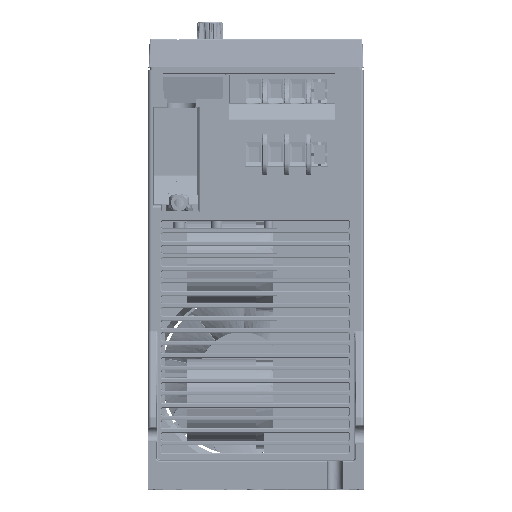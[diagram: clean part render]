
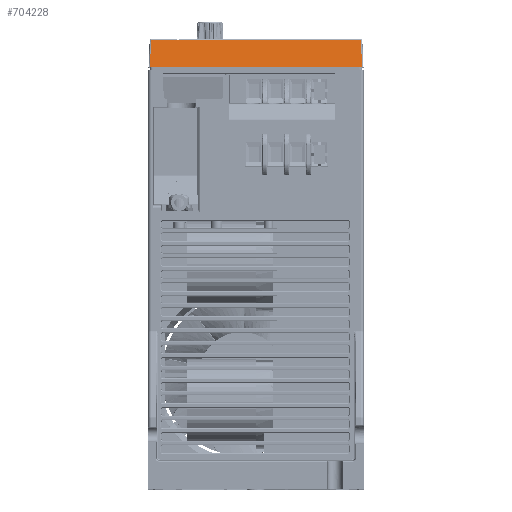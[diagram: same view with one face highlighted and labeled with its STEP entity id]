
A CAD part, top view. The second image highlights one B-rep face of the part: STEP entity #704228.
In plain terms, the highlighted planar face has unit normal (0, 0.174, 0.985).
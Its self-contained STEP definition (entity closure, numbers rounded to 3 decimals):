
#686814=CARTESIAN_POINT('',(36.981,-8.3,89.912));
#686861=CARTESIAN_POINT('',(-36.981,-8.3,89.912));
#690195=DIRECTION('',(0.043,-0.984,0.173));
#690196=VECTOR('',#690195,9.744);
#690197=CARTESIAN_POINT('',(36.563,1.287,
88.221));
#690198=LINE('',#690197,#690196);
#690202=DIRECTION('',(-1.,0.,0.));
#690203=VECTOR('',#690202,73.963);
#690204=CARTESIAN_POINT('',(36.981,-8.3,89.912));
#690205=LINE('',#690204,#690203);
#690209=DIRECTION('',(-0.043,-0.984,0.173));
#690210=VECTOR('',#690209,9.744);
#690211=CARTESIAN_POINT('',(-36.563,1.287,
88.221));
#690212=LINE('',#690211,#690210);
#690216=DIRECTION('',(-1.,0.,0.));
#690217=VECTOR('',#690216,9.063);
#690218=CARTESIAN_POINT('',(-27.5,1.287,88.221));
#690219=LINE('',#690218,#690217);
#690223=DIRECTION('',(-1.,0.,0.));
#690224=VECTOR('',#690223,0.5);
#690225=CARTESIAN_POINT('',(-27.,1.2,88.237));
#690226=LINE('',#690225,#690224);
#690230=DIRECTION('',(1.,0.,0.));
#690231=VECTOR('',#690230,63.563);
#690232=CARTESIAN_POINT('',(-27.,1.287,88.221));
#690233=LINE('',#690232,#690231);
#690334=DIRECTION('',(0.,0.985,
-0.174));
#690335=VECTOR('',#690334,0.088);
#690336=CARTESIAN_POINT('',(-27.5,1.2,88.237));
#690337=LINE('',#690336,#690335);
#690363=DIRECTION('',(0.,-0.985,0.174));
#690364=VECTOR('',#690363,0.088);
#690365=CARTESIAN_POINT('',(-27.,1.287,88.221));
#690366=LINE('',#690365,#690364);
#696839=CARTESIAN_POINT('',(-27.,1.2,88.237));
#696840=CARTESIAN_POINT('',(-27.5,1.2,88.237));
#696841=VERTEX_POINT('',#696839);
#696842=VERTEX_POINT('',#696840);
#696847=CARTESIAN_POINT('',(-27.,1.287,88.221));
#696849=VERTEX_POINT('',#696847);
#696851=CARTESIAN_POINT('',(36.563,1.287,
88.221));
#696852=VERTEX_POINT('',#696851);
#696858=CARTESIAN_POINT('',(-27.5,1.287,88.221));
#696860=VERTEX_POINT('',#696858);
#696861=CARTESIAN_POINT('',(-36.563,1.287,
88.221));
#696862=VERTEX_POINT('',#696861);
#696896=VERTEX_POINT('',#686814);
#696897=VERTEX_POINT('',#686861);
#704207=CARTESIAN_POINT('',(39.427,-8.8,90.));
#704208=DIRECTION('',(0.,0.174,0.985));
#704209=DIRECTION('',(-1.,0.,0.));
#704210=AXIS2_PLACEMENT_3D('',#704207,#704208,#704209);
#704211=PLANE('',#704210);
#704212=ORIENTED_EDGE('',*,*,#704192,.T.);
#704213=ORIENTED_EDGE('',*,*,#700454,.T.);
#704215=ORIENTED_EDGE('',*,*,#704214,.F.);
#704217=ORIENTED_EDGE('',*,*,#704216,.F.);
#704219=ORIENTED_EDGE('',*,*,#704218,.F.);
#704221=ORIENTED_EDGE('',*,*,#704220,.F.);
#704223=ORIENTED_EDGE('',*,*,#704222,.F.);
#704225=ORIENTED_EDGE('',*,*,#704224,.T.);
#704226=EDGE_LOOP('',(#704212,#704213,#704215,#704217,#704219,#704221,#704223,
#704225));
#704227=FACE_OUTER_BOUND('',#704226,.F.);
#700454=EDGE_CURVE('',#696896,#696897,#690205,.T.);
#704192=EDGE_CURVE('',#696852,#696896,#690198,.T.);
#704214=EDGE_CURVE('',#696862,#696897,#690212,.T.);
#704216=EDGE_CURVE('',#696860,#696862,#690219,.T.);
#704218=EDGE_CURVE('',#696842,#696860,#690337,.T.);
#704220=EDGE_CURVE('',#696841,#696842,#690226,.T.);
#704222=EDGE_CURVE('',#696849,#696841,#690366,.T.);
#704224=EDGE_CURVE('',#696849,#696852,#690233,.T.);
#704228=ADVANCED_FACE('',(#704227),#704211,.T.);
